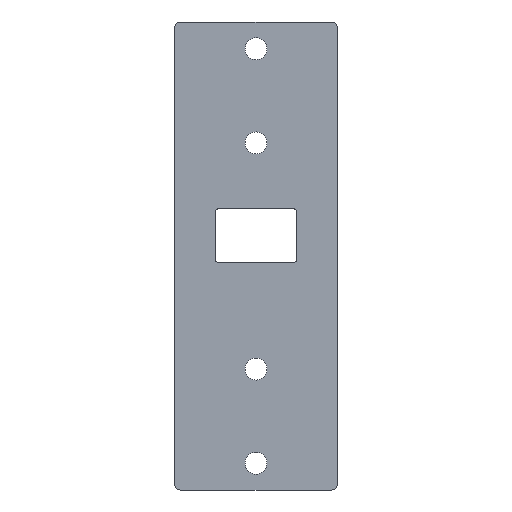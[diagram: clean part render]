
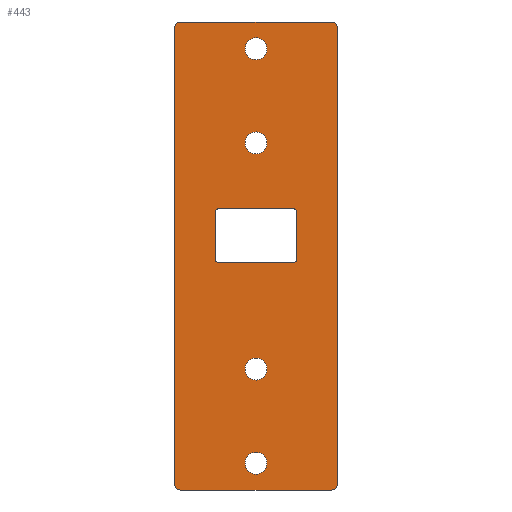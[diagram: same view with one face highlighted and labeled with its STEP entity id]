
A CAD part, front view. The second image highlights one B-rep face of the part: STEP entity #443.
In plain terms, the highlighted planar face has unit normal (0, -1, 0).
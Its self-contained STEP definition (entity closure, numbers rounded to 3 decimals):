
#14=FACE_BOUND('',#61,.T.);
#15=FACE_BOUND('',#62,.T.);
#16=FACE_BOUND('',#63,.T.);
#17=FACE_BOUND('',#64,.T.);
#18=FACE_BOUND('',#65,.T.);
#25=PLANE('',#494);
#38=FACE_OUTER_BOUND('',#60,.T.);
#60=EDGE_LOOP('',(#300,#301,#302,#303,#304,#305,#306,#307));
#61=EDGE_LOOP('',(#308));
#62=EDGE_LOOP('',(#309));
#63=EDGE_LOOP('',(#310));
#64=EDGE_LOOP('',(#311));
#65=EDGE_LOOP('',(#312,#313,#314,#315,#316,#317,#318,#319));
#92=LINE('',#684,#128);
#95=LINE('',#690,#131);
#96=LINE('',#694,#132);
#97=LINE('',#698,#133);
#98=LINE('',#706,#134);
#99=LINE('',#710,#135);
#100=LINE('',#714,#136);
#101=LINE('',#718,#137);
#128=VECTOR('',#556,10.);
#131=VECTOR('',#561,10.);
#132=VECTOR('',#564,10.);
#133=VECTOR('',#567,10.);
#134=VECTOR('',#574,10.);
#135=VECTOR('',#577,10.);
#136=VECTOR('',#580,10.);
#137=VECTOR('',#583,10.);
#160=CIRCLE('',#485,3.5);
#162=CIRCLE('',#488,3.5);
#165=CIRCLE('',#492,2.);
#166=CIRCLE('',#495,2.);
#167=CIRCLE('',#496,2.);
#168=CIRCLE('',#497,2.);
#169=CIRCLE('',#498,3.5);
#170=CIRCLE('',#499,3.5);
#171=CIRCLE('',#500,1.);
#172=CIRCLE('',#501,1.);
#173=CIRCLE('',#502,1.);
#174=CIRCLE('',#503,1.);
#184=VERTEX_POINT('',#662);
#186=VERTEX_POINT('',#668);
#190=VERTEX_POINT('',#677);
#191=VERTEX_POINT('',#679);
#192=VERTEX_POINT('',#683);
#194=VERTEX_POINT('',#689);
#195=VERTEX_POINT('',#691);
#196=VERTEX_POINT('',#693);
#197=VERTEX_POINT('',#695);
#198=VERTEX_POINT('',#697);
#199=VERTEX_POINT('',#700);
#200=VERTEX_POINT('',#702);
#201=VERTEX_POINT('',#704);
#202=VERTEX_POINT('',#705);
#203=VERTEX_POINT('',#707);
#204=VERTEX_POINT('',#709);
#205=VERTEX_POINT('',#711);
#206=VERTEX_POINT('',#713);
#207=VERTEX_POINT('',#715);
#208=VERTEX_POINT('',#717);
#224=EDGE_CURVE('',#184,#184,#160,.T.);
#227=EDGE_CURVE('',#186,#186,#162,.T.);
#232=EDGE_CURVE('',#190,#191,#165,.T.);
#234=EDGE_CURVE('',#192,#191,#92,.T.);
#237=EDGE_CURVE('',#194,#190,#95,.T.);
#238=EDGE_CURVE('',#195,#194,#166,.T.);
#239=EDGE_CURVE('',#196,#195,#96,.T.);
#240=EDGE_CURVE('',#197,#196,#167,.T.);
#241=EDGE_CURVE('',#197,#198,#97,.T.);
#242=EDGE_CURVE('',#192,#198,#168,.T.);
#243=EDGE_CURVE('',#199,#199,#169,.T.);
#244=EDGE_CURVE('',#200,#200,#170,.T.);
#245=EDGE_CURVE('',#201,#202,#98,.T.);
#246=EDGE_CURVE('',#203,#201,#171,.T.);
#247=EDGE_CURVE('',#204,#203,#99,.T.);
#248=EDGE_CURVE('',#205,#204,#172,.T.);
#249=EDGE_CURVE('',#206,#205,#100,.T.);
#250=EDGE_CURVE('',#207,#206,#173,.T.);
#251=EDGE_CURVE('',#208,#207,#101,.T.);
#252=EDGE_CURVE('',#202,#208,#174,.T.);
#300=ORIENTED_EDGE('',*,*,#232,.F.);
#301=ORIENTED_EDGE('',*,*,#237,.F.);
#302=ORIENTED_EDGE('',*,*,#238,.F.);
#303=ORIENTED_EDGE('',*,*,#239,.F.);
#304=ORIENTED_EDGE('',*,*,#240,.F.);
#305=ORIENTED_EDGE('',*,*,#241,.T.);
#306=ORIENTED_EDGE('',*,*,#242,.F.);
#307=ORIENTED_EDGE('',*,*,#234,.T.);
#308=ORIENTED_EDGE('',*,*,#224,.T.);
#309=ORIENTED_EDGE('',*,*,#227,.T.);
#310=ORIENTED_EDGE('',*,*,#243,.F.);
#311=ORIENTED_EDGE('',*,*,#244,.F.);
#312=ORIENTED_EDGE('',*,*,#245,.F.);
#313=ORIENTED_EDGE('',*,*,#246,.F.);
#314=ORIENTED_EDGE('',*,*,#247,.F.);
#315=ORIENTED_EDGE('',*,*,#248,.F.);
#316=ORIENTED_EDGE('',*,*,#249,.F.);
#317=ORIENTED_EDGE('',*,*,#250,.F.);
#318=ORIENTED_EDGE('',*,*,#251,.F.);
#319=ORIENTED_EDGE('',*,*,#252,.F.);
#443=ADVANCED_FACE('',(#38,#14,#15,#16,#17,#18),#25,.F.);
#485=AXIS2_PLACEMENT_3D('',#663,#534,#535);
#488=AXIS2_PLACEMENT_3D('',#669,#541,#542);
#492=AXIS2_PLACEMENT_3D('',#680,#551,#552);
#494=AXIS2_PLACEMENT_3D('',#688,#559,#560);
#495=AXIS2_PLACEMENT_3D('',#692,#562,#563);
#496=AXIS2_PLACEMENT_3D('',#696,#565,#566);
#497=AXIS2_PLACEMENT_3D('',#699,#568,#569);
#498=AXIS2_PLACEMENT_3D('',#701,#570,#571);
#499=AXIS2_PLACEMENT_3D('',#703,#572,#573);
#500=AXIS2_PLACEMENT_3D('',#708,#575,#576);
#501=AXIS2_PLACEMENT_3D('',#712,#578,#579);
#502=AXIS2_PLACEMENT_3D('',#716,#581,#582);
#503=AXIS2_PLACEMENT_3D('',#719,#584,#585);
#534=DIRECTION('center_axis',(0.,1.,0.));
#535=DIRECTION('ref_axis',(1.,0.,0.));
#541=DIRECTION('center_axis',(0.,1.,0.));
#542=DIRECTION('ref_axis',(1.,0.,0.));
#551=DIRECTION('center_axis',(0.,1.,0.));
#552=DIRECTION('ref_axis',(0.707,0.,-0.707));
#556=DIRECTION('',(1.,0.,0.));
#559=DIRECTION('center_axis',(0.,1.,0.));
#560=DIRECTION('ref_axis',(0.,0.,1.));
#561=DIRECTION('',(0.,0.,-1.));
#562=DIRECTION('center_axis',(0.,1.,0.));
#563=DIRECTION('ref_axis',(0.,0.,1.));
#564=DIRECTION('',(1.,0.,0.));
#565=DIRECTION('center_axis',(0.,1.,0.));
#566=DIRECTION('ref_axis',(-1.,0.,0.));
#567=DIRECTION('',(0.,0.,-1.));
#568=DIRECTION('center_axis',(0.,1.,0.));
#569=DIRECTION('ref_axis',(-0.707,0.,-0.707));
#570=DIRECTION('center_axis',(0.,-1.,0.));
#571=DIRECTION('ref_axis',(1.,0.,0.));
#572=DIRECTION('center_axis',(0.,-1.,0.));
#573=DIRECTION('ref_axis',(1.,0.,0.));
#574=DIRECTION('',(0.,0.,-1.));
#575=DIRECTION('center_axis',(0.,-1.,0.));
#576=DIRECTION('ref_axis',(1.,0.,0.));
#577=DIRECTION('',(-1.,0.,0.));
#578=DIRECTION('center_axis',(0.,-1.,0.));
#579=DIRECTION('ref_axis',(0.,0.,-1.));
#580=DIRECTION('',(0.,0.,1.));
#581=DIRECTION('center_axis',(0.,-1.,0.));
#582=DIRECTION('ref_axis',(-1.,0.,0.));
#583=DIRECTION('',(1.,0.,0.));
#584=DIRECTION('center_axis',(0.,-1.,0.));
#585=DIRECTION('ref_axis',(0.,0.,1.));
#662=CARTESIAN_POINT('',(-3.5,0.,-95.75));
#663=CARTESIAN_POINT('Origin',(0.,0.,-95.75));
#668=CARTESIAN_POINT('',(-3.5,0.,-65.75));
#669=CARTESIAN_POINT('Origin',(0.,0.,-65.75));
#677=CARTESIAN_POINT('',(26.,0.,-102.25));
#679=CARTESIAN_POINT('',(24.,0.,-104.25));
#680=CARTESIAN_POINT('Origin',(24.,0.,-102.25));
#683=CARTESIAN_POINT('',(-24.,0.,-104.25));
#684=CARTESIAN_POINT('',(-26.,0.,-104.25));
#688=CARTESIAN_POINT('Origin',(0.,0.,0.));
#689=CARTESIAN_POINT('',(26.,0.,42.75));
#690=CARTESIAN_POINT('',(26.,0.,42.75));
#691=CARTESIAN_POINT('',(24.,0.,44.75));
#692=CARTESIAN_POINT('Origin',(24.,0.,42.75));
#693=CARTESIAN_POINT('',(-24.,0.,44.75));
#694=CARTESIAN_POINT('',(-24.,0.,44.75));
#695=CARTESIAN_POINT('',(-26.,0.,42.75));
#696=CARTESIAN_POINT('Origin',(-24.,0.,42.75));
#697=CARTESIAN_POINT('',(-26.,0.,-102.25));
#698=CARTESIAN_POINT('',(-26.,0.,-44.75));
#699=CARTESIAN_POINT('Origin',(-24.,0.,-102.25));
#700=CARTESIAN_POINT('',(-3.5,0.,36.25));
#701=CARTESIAN_POINT('Origin',(0.,0.,36.25));
#702=CARTESIAN_POINT('',(-3.5,0.,6.25));
#703=CARTESIAN_POINT('Origin',(0.,0.,6.25));
#704=CARTESIAN_POINT('',(-13.,0.,-15.75));
#705=CARTESIAN_POINT('',(-13.,0.,-30.75));
#706=CARTESIAN_POINT('',(-13.,0.,-15.75));
#707=CARTESIAN_POINT('',(-12.,0.,-14.75));
#708=CARTESIAN_POINT('Origin',(-12.,0.,-15.75));
#709=CARTESIAN_POINT('',(12.,0.,-14.75));
#710=CARTESIAN_POINT('',(12.,0.,-14.75));
#711=CARTESIAN_POINT('',(13.,0.,-15.75));
#712=CARTESIAN_POINT('Origin',(12.,0.,-15.75));
#713=CARTESIAN_POINT('',(13.,0.,-30.75));
#714=CARTESIAN_POINT('',(13.,0.,-30.75));
#715=CARTESIAN_POINT('',(12.,0.,-31.75));
#716=CARTESIAN_POINT('Origin',(12.,0.,-30.75));
#717=CARTESIAN_POINT('',(-12.,0.,-31.75));
#718=CARTESIAN_POINT('',(-12.,0.,-31.75));
#719=CARTESIAN_POINT('Origin',(-12.,0.,-30.75));
